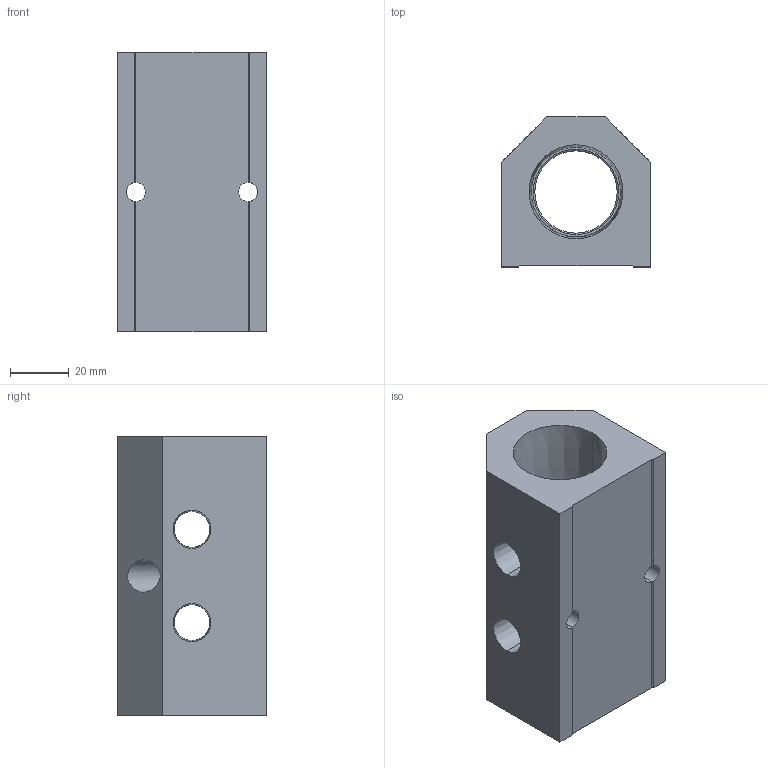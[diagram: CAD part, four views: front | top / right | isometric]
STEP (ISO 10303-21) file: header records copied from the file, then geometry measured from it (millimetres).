
FILE_DESCRIPTION (( 'STEP AP214' ), '1' );
FILE_NAME ('ALM2ACE-N4N16-95B.STEP', '2023-11-02T06:31:36', ( '' ), ( '' ), 'SwSTEP 2.0', 'SolidWorks 2020', '' );
FILE_SCHEMA (( 'AUTOMOTIVE_DESIGN' ));
Length unit declared in the file: millimetre
Products named in the file (1): ALM2ACE-N4N16-95B
Bounding box: 50.8 x 50.8 x 95 mm (x, y, z)
Volume: 142662.1 mm3; surface area: 32778.3 mm2
Topology: 1 solids, 1 shells, 294 faces, 772 edges, 508 vertices
Faces by surface type: plane 206, bspline 54, cone 20, cylinder 14
Entity records: 15670 total; most frequent: CARTESIAN_POINT 5971, ORIENTED_EDGE 1544, DIRECTION 1170, EDGE_CURVE 772, VECTOR 600, LINE 600, VERTEX_POINT 508, EDGE_LOOP 340
